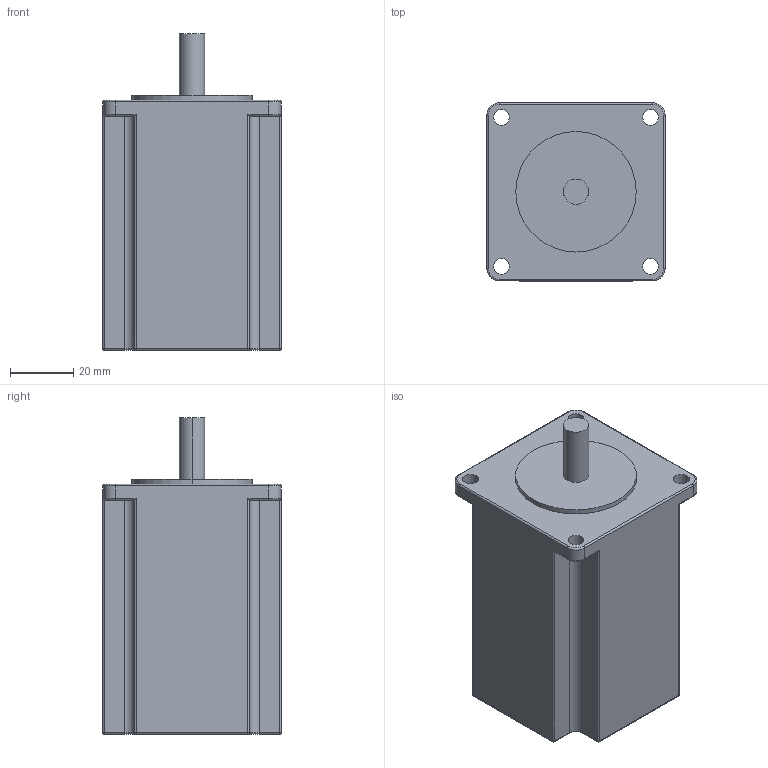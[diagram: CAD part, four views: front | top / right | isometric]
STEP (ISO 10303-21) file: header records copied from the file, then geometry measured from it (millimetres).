
FILE_DESCRIPTION (( 'STEP AP214' ), '1' );
FILE_NAME ('3S57Q-04079.STEP', '2021-03-02T01:41:41', ( '' ), ( '' ), 'SwSTEP 2.0', 'SolidWorks 2020', '' );
FILE_SCHEMA (( 'AUTOMOTIVE_DESIGN' ));
Length unit declared in the file: millimetre
Products named in the file (1): 3S57Q-04079
Bounding box: 56.4 x 56.4 x 100 mm (x, y, z)
Volume: 224546.3 mm3; surface area: 24340.4 mm2
Topology: 1 solids, 1 shells, 92 faces, 216 edges, 120 vertices
Faces by surface type: cylinder 52, plane 20, torus 12, sphere 8
Entity records: 2594 total; most frequent: DIRECTION 486, CARTESIAN_POINT 445, ORIENTED_EDGE 416, EDGE_CURVE 208, AXIS2_PLACEMENT_3D 193, VERTEX_POINT 120, EDGE_LOOP 102, CIRCLE 100
